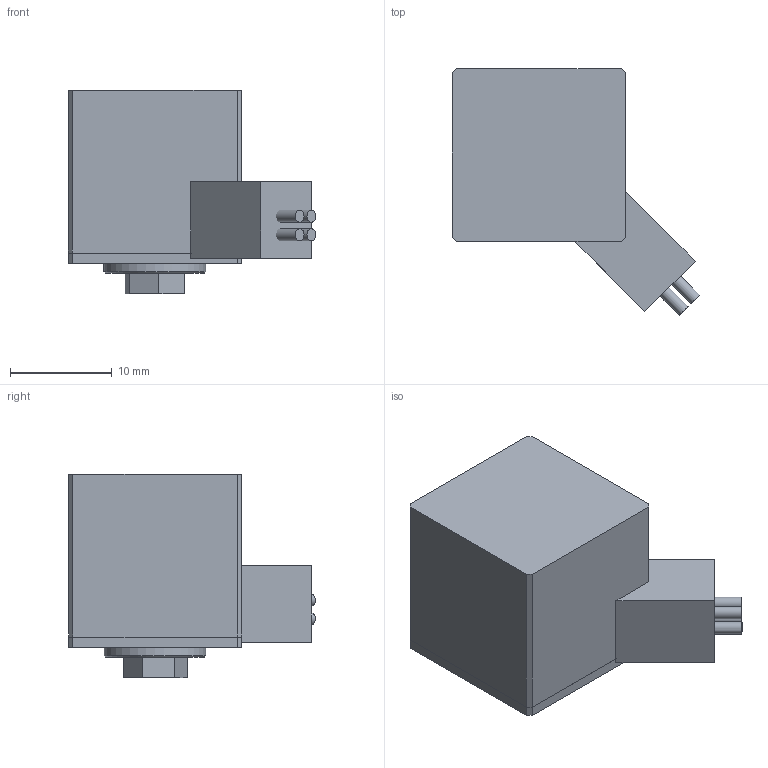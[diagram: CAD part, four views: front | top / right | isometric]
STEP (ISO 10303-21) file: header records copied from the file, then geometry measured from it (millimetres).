
FILE_DESCRIPTION(/* description */ (''),/* implementation_level */ '2;1');
FILE_NAME(/* name */ 'D3-1-12-1000-00-nD3RN_STD_Simplified-2 v4.step',/* time_stamp */ '2023-02-09T14:53:33+01:00',/* author */ (''),/* organization */ (''),/* preprocessor_version */ 'ST-DEVELOPER v19.2',/* originating_system */ 'Autodesk Translation Framework v11.17.0.187',/* authorisation */ '');
FILE_SCHEMA (('AUTOMOTIVE_DESIGN { 1 0 10303 214 3 1 1 }'));
Length unit declared in the file: millimetre
Products named in the file (6): D3-1-12-1000-00-nD3RN_STD_Simplified-2; RN_lin_cage; RN_lin_casing; RN_lin_nut; Installation Space (2); D3-01-1000-05-WireSleeve-V3_D3-01-1000-05-WireSleeve-V9 v1
Assembly tree (5 placements, depth 2):
  D3-1-12-1000-00-nD3RN_STD_Simplified-2
    RN_lin_cage
    RN_lin_casing
    RN_lin_nut
    Installation Space (2)
    D3-01-1000-05-WireSleeve-V3_D3-01-1000-05-WireSleeve-V9 v1
Bounding box: 24.31 x 24.25 x 20 mm (x, y, z)
Volume: 4744.8 mm3; surface area: 5617.5 mm2
Topology: 9 solids, 9 shells, 238 faces, 604 edges, 390 vertices
Faces by surface type: cylinder 123, plane 88, bspline 20, cone 7
Full cylindrical faces by diameter (mm): 1.2 x8, 1.623 x10, 2.074 x4, 2.529 x10, 3.086 x6, 7 x2, 10 x1
Entity records: 13023 total; most frequent: CARTESIAN_POINT 7425, ORIENTED_EDGE 1206, DIRECTION 976, EDGE_CURVE 603, VERTEX_POINT 390, AXIS2_PLACEMENT_3D 336, LINE 304, VECTOR 304
